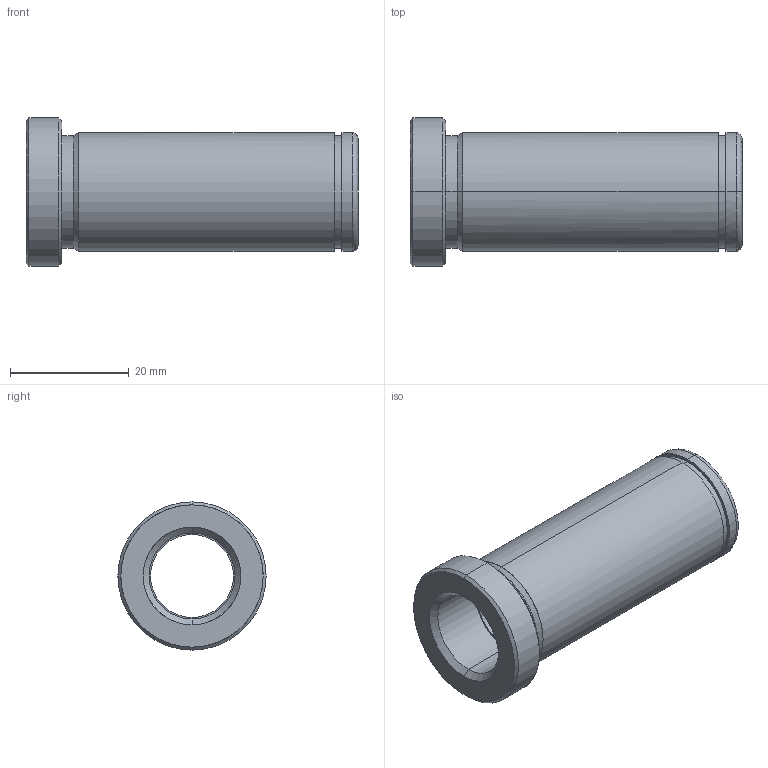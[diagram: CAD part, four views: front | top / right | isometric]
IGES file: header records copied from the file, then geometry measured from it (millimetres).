
Start section: START RECORD GO HERE.
Global section: file name: 553-14X56.igs; native system: DASSAULT SYSTEMES CATIA V5 R20 - www.3ds.com; preprocessor: CATIA Version 5 Release 20 ; author: Utente; organization: NB04-ASUS; date: 20210521.202410; units: millimetre
Bounding box: 56 x 25 x 25 mm (x, y, z)
Surface area: 6727 mm2 (no closed solid volume)
Topology: 0 solids, 0 shells, 32 faces, 204 edges, 204 vertices
Faces by surface type: revolution 26, plane 6
